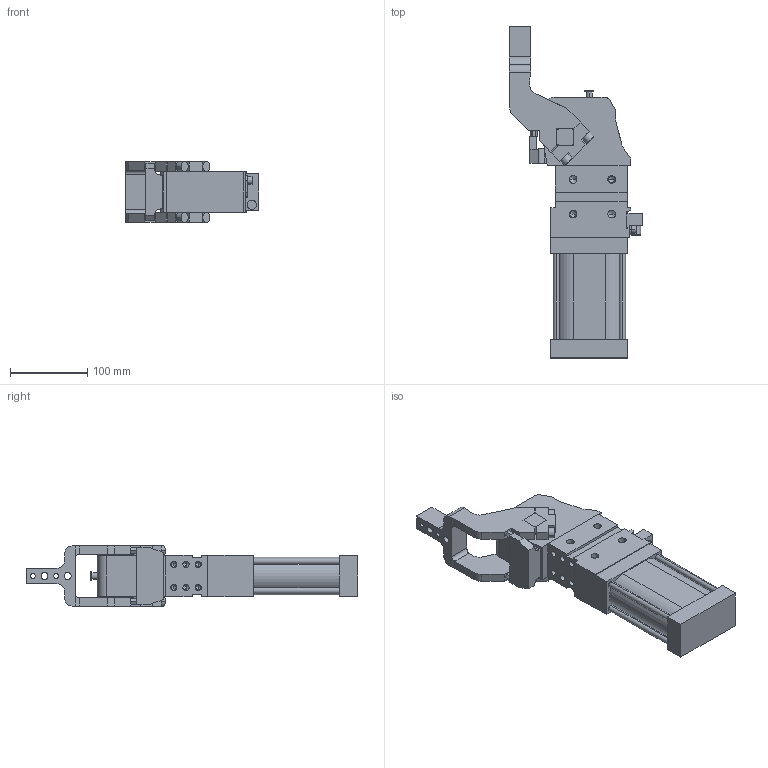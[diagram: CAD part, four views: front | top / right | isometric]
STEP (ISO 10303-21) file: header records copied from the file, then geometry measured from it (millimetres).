
FILE_DESCRIPTION (( 'STEP AP214' ), '1' );
FILE_NAME ('cpl63th3ci1g_107.STEP', '2023-01-26T13:04:29', ( '' ), ( '' ), 'SwSTEP 2.0', 'SolidWorks 2022', '' );
FILE_SCHEMA (( 'AUTOMOTIVE_DESIGN' ));
Length unit declared in the file: millimetre
Products named in the file (4): meccanica_cpl_63_tassello_esterno; leva_h3c_cpl63t; cpl63th3ci1g_107; blocchetto_VEP_0
Assembly tree (3 placements, depth 2):
  cpl63th3ci1g_107
    meccanica_cpl_63_tassello_esterno
    blocchetto_VEP_0
    leva_h3c_cpl63t
Bounding box: 173.5 x 430.5 x 79 mm (x, y, z)
Volume: 1831315.5 mm3; surface area: 199360.1 mm2
Topology: 3 solids, 3 shells, 433 faces, 1142 edges, 709 vertices
Faces by surface type: plane 233, cylinder 150, cone 50
Entity records: 14616 total; most frequent: CARTESIAN_POINT 2326, DIRECTION 2296, ORIENTED_EDGE 2192, EDGE_CURVE 1096, AXIS2_PLACEMENT_3D 769, VECTOR 758, LINE 758, VERTEX_POINT 709
